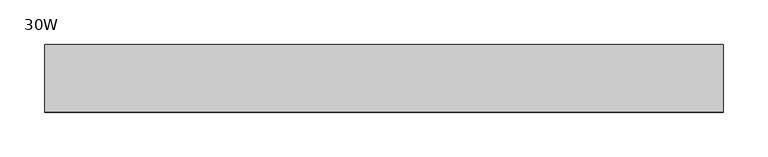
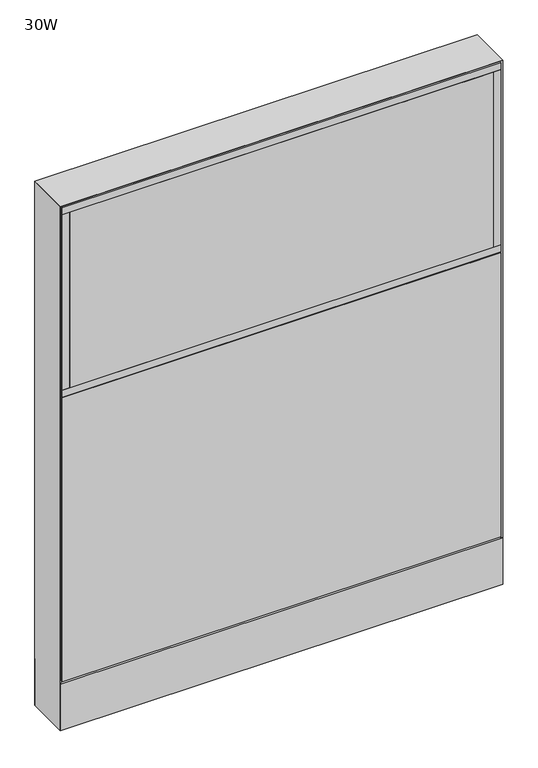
"""IFC4 building model written with IfcOpenShell, lengths in millimetres: furniture geometry, Steelcase - Montage - Frame - 38H - Enhanced Standard - Base Cavity : 30W."""

import ifcopenshell
import ifcopenshell.guid

model = None  # the IFC model being written
_history = None  # IfcOwnerHistory: only IFC2X3 demands one
_inside = {}  # id of a spatial element -> (the spatial element, [elements in it])
_under = {}  # id of a project, library or spatial element -> (it, [spatial elements below it])
_declared = {}  # id of a project -> (the project, [libraries it declares])
_typed = {}  # id of a type object -> (the type object, [elements of that type])
_made_of = {}  # id of a material, layer set ... -> (it, [elements and type objects made of it])


def new_model(schema):
    """Start an empty IFC model of exactly this schema.

    Asked for "IFC4X3", IfcOpenShell would pick the latest addendum, in which some entities
    have other attributes; the version numbers below select the first issue.
    IFC2X3 requires an IfcOwnerHistory on every rooted entity: one is made here for all.
    """
    global model, _history
    if schema == "IFC4X3":
        model = ifcopenshell.file(schema_version=(4, 3, 0, 0))
    else:
        model = ifcopenshell.file(schema=schema)
    _inside.clear()
    _under.clear()
    _declared.clear()
    _typed.clear()
    _made_of.clear()
    _history = None
    if model.schema == "IFC2X3":
        org = make("IfcOrganization", Name="unknown")
        user = make(
            "IfcPersonAndOrganization",
            ThePerson=make("IfcPerson", FamilyName="unknown"),
            TheOrganization=org,
        )
        app = make(
            "IfcApplication",
            ApplicationDeveloper=org,
            Version="unknown",
            ApplicationFullName="unknown",
            ApplicationIdentifier="unknown",
        )
        _history = make(
            "IfcOwnerHistory",
            OwningUser=user,
            OwningApplication=app,
            ChangeAction="ADDED",
            CreationDate=0,
        )
    return model


def make(cls, **values):
    """One entity of the class cls with the attributes given. An attribute that is None is left unset."""
    return model.create_entity(
        cls, **{name: value for name, value in values.items() if value is not None}
    )


def rooted(cls, **values):
    """An entity with a GlobalId (a new one), such as an element, a storey or a relation."""
    return make(cls, GlobalId=ifcopenshell.guid.new(), OwnerHistory=_history, **values)


def si_unit(unit_type, name, prefix=None):
    """IfcSIUnit, for example si_unit("LENGTHUNIT", "METRE", prefix="MILLI")."""
    return make("IfcSIUnit", UnitType=unit_type, Prefix=prefix, Name=name)


def assignment(units):
    """IfcUnitAssignment: the units of a project."""
    return None if units is None else make("IfcUnitAssignment", Units=units)


def point(xyz):
    """IfcCartesianPoint."""
    return None if xyz is None else make("IfcCartesianPoint", Coordinates=xyz)


def direction(xyz):
    """IfcDirection."""
    return None if xyz is None else make("IfcDirection", DirectionRatios=xyz)


def frame(location, z_axis=None, x_axis=None):
    """IfcAxis2Placement3D, a coordinate frame: its origin and axes. An axis left out is left unset."""
    return make(
        "IfcAxis2Placement3D",
        Location=point(location),
        Axis=direction(z_axis),
        RefDirection=direction(x_axis),
    )


def frame_2d(location, x_axis=None):
    """IfcAxis2Placement2D, a coordinate frame in the plane: its origin and x axis."""
    return make(
        "IfcAxis2Placement2D", Location=point(location), RefDirection=direction(x_axis)
    )


def origin():
    """The frame at (0, 0, 0) with its axes left unset."""
    return frame((0.0, 0.0, 0.0))


def origin_with_axes():
    """The frame at (0, 0, 0) with the z axis (0, 0, 1) and the x axis (1, 0, 0) written out."""
    return frame((0.0, 0.0, 0.0), z_axis=(0.0, 0.0, 1.0), x_axis=(1.0, 0.0, 0.0))


def place(relative_to, where):
    """IfcLocalPlacement: puts the frame where relative to a parent placement (None: the world)."""
    return make(
        "IfcLocalPlacement", PlacementRelTo=relative_to, RelativePlacement=where
    )


def context(
    kind, dimensions, precision=None, world=None, true_north=None, identifier=None
):
    """IfcGeometricRepresentationContext, for example the 3D "Model" context."""
    return make(
        "IfcGeometricRepresentationContext",
        ContextIdentifier=identifier,
        ContextType=kind,
        CoordinateSpaceDimension=dimensions,
        Precision=precision,
        WorldCoordinateSystem=world,
        TrueNorth=true_north,
    )


def project(units=None, contexts=None):
    """IfcProject with its units and contexts."""
    return rooted(
        "IfcProject",
        Name="project",
        RepresentationContexts=contexts,
        UnitsInContext=assignment(units),
    )


def spatial(cls, under=None, at=None, **own):
    """A site, building, storey or space (cls), placed at a placement, below another one or the project."""
    s = rooted(cls, ObjectPlacement=at, **own)
    if under is not None:
        _under.setdefault(under.id(), (under, []))[1].append(s)
    return s


def polyline(points):
    """IfcPolyline through the points."""
    return make("IfcPolyline", Points=[point(p) for p in points])


def circle_curve(where, radius):
    """IfcCircle in the frame where."""
    return make("IfcCircle", Position=where, Radius=radius)


def trimmed(basis, trim1, trim2, sense, master):
    """IfcTrimmedCurve: the piece of a basis curve between two trims."""
    return make(
        "IfcTrimmedCurve",
        BasisCurve=basis,
        Trim1=trim1,
        Trim2=trim2,
        SenseAgreement=sense,
        MasterRepresentation=master,
    )


def segment(curve, same_sense, transition):
    """IfcCompositeCurveSegment."""
    return make(
        "IfcCompositeCurveSegment",
        Transition=transition,
        SameSense=same_sense,
        ParentCurve=curve,
    )


def composite_curve(segments, self_intersect=None):
    """IfcCompositeCurve: segments joined end to end."""
    return make("IfcCompositeCurve", Segments=segments, SelfIntersect=self_intersect)


def outline(outer, holes=None, kind="AREA"):
    """IfcArbitraryClosedProfileDef: a profile drawn as a closed curve; with holes, ...WithVoids."""
    if holes is None:
        return make("IfcArbitraryClosedProfileDef", ProfileType=kind, OuterCurve=outer)
    return make(
        "IfcArbitraryProfileDefWithVoids",
        ProfileType=kind,
        OuterCurve=outer,
        InnerCurves=holes,
    )


def extrude(swept, where, along, depth):
    """IfcExtrudedAreaSolid: the profile swept, set in the frame where, extruded along a direction by depth."""
    return make(
        "IfcExtrudedAreaSolid",
        SweptArea=swept,
        Position=where,
        ExtrudedDirection=direction(along),
        Depth=depth,
    )


def faces_of(points, faces, orient=None, outer=None):
    """IfcFace entities. A face is a list of loops; a loop is a list of indices into points, from 0.

    orient and outer hold one flag for each loop. By default every Orientation is true, the
    first loop of a face is its IfcFaceOuterBound and the others are IfcFaceBound.
    """
    made = []
    for i, loops in enumerate(faces):
        bounds = []
        for j, loop in enumerate(loops):
            is_outer = j == 0 if outer is None else outer[i][j]
            bounds.append(
                make(
                    "IfcFaceOuterBound" if is_outer else "IfcFaceBound",
                    Bound=make("IfcPolyLoop", Polygon=[points[k] for k in loop]),
                    Orientation=True if orient is None else orient[i][j],
                )
            )
        made.append(make("IfcFace", Bounds=bounds))
    return made


def faceted_brep(points, faces, orient=None, outer=None, voids=None):
    """IfcFacetedBrep: a solid bounded by flat faces; with voids (closed shells), ...WithVoids."""
    shared = [point(p) for p in points]
    hull = make("IfcClosedShell", CfsFaces=faces_of(shared, faces, orient, outer))
    if voids is None:
        return make("IfcFacetedBrep", Outer=hull)
    return make(
        "IfcFacetedBrepWithVoids",
        Outer=hull,
        Voids=[
            make(cls, CfsFaces=faces_of(shared, fs, o, b)) for cls, fs, o, b in voids
        ],
    )


def shape(context_of_items, identifier, shape_type, items):
    """IfcShapeRepresentation: the items that make up one representation, for example the "Body"."""
    return make(
        "IfcShapeRepresentation",
        ContextOfItems=context_of_items,
        RepresentationIdentifier=identifier,
        RepresentationType=shape_type,
        Items=items,
    )


def source(mapping_origin, context_of_items, identifier, shape_type, items):
    """IfcRepresentationMap: a shape defined once, which mapped items show again and again."""
    return make(
        "IfcRepresentationMap",
        MappingOrigin=mapping_origin,
        MappedRepresentation=shape(context_of_items, identifier, shape_type, items),
    )


def transform(
    local_origin,
    x_axis=None,
    y_axis=None,
    z_axis=None,
    scale=None,
    scale2=None,
    scale3=None,
    uniform=True,
):
    """IfcCartesianTransformationOperator3D, or its non-uniform kind. x_axis, y_axis, z_axis: its Axis1, 2, 3."""
    if uniform:
        return make(
            "IfcCartesianTransformationOperator3D",
            Axis1=direction(x_axis),
            Axis2=direction(y_axis),
            LocalOrigin=point(local_origin),
            Scale=scale,
            Axis3=direction(z_axis),
        )
    return make(
        "IfcCartesianTransformationOperator3DnonUniform",
        Axis1=direction(x_axis),
        Axis2=direction(y_axis),
        LocalOrigin=point(local_origin),
        Scale=scale,
        Axis3=direction(z_axis),
        Scale2=scale2,
        Scale3=scale3,
    )


def mapped(mapping_source, mapping_target):
    """IfcMappedItem: shows the shape of a source again, moved by a transform."""
    return make(
        "IfcMappedItem", MappingSource=mapping_source, MappingTarget=mapping_target
    )


def made_of(thing, what):
    """Note that an element or type object is made of a material, layer set ...; save() writes the relation."""
    if what is not None:
        _made_of.setdefault(what.id(), (what, []))[1].append(thing)
    return thing


def element(
    cls,
    number,
    at=None,
    inside=None,
    cuts=None,
    type_object=None,
    material=None,
    context=None,
    identifier="Body",
    shape_type=None,
    held_by="IfcProductDefinitionShape",
    body=None,
    shapes=None,
    **own,
):
    """One element of the class cls, such as IfcWall. Its Tag is "e" and its number.

    at: its placement. inside: the storey or other place that contains it. cuts: it is an
    opening in that element (IfcRelVoidsElement). A single representation is given by context,
    identifier, shape_type and body (its items); several are given by shapes. held_by: the class
    of the entity that holds the representations. save() writes the other relations.
    """
    e = rooted(cls, Tag="e%d" % number, ObjectPlacement=at, **own)
    if body is not None:
        shapes = [shape(context, identifier, shape_type, body)]
    if shapes is not None:
        e.Representation = make(held_by, Representations=shapes)
    if inside is not None:
        _inside.setdefault(inside.id(), (inside, []))[1].append(e)
    if cuts is not None:
        rooted(
            "IfcRelVoidsElement", RelatingBuildingElement=cuts, RelatedOpeningElement=e
        )
    if type_object is not None:
        _typed.setdefault(type_object.id(), (type_object, []))[1].append(e)
    return made_of(e, material)


def aggregate(whole, parts):
    """IfcRelAggregates: a whole, such as a stair, and the parts it consists of."""
    return rooted("IfcRelAggregates", RelatingObject=whole, RelatedObjects=parts)


def save(model, path):
    """Write the relations noted so far, then the file.

    IfcRelAggregates (storeys below a building ...), IfcRelContainedInSpatialStructure (elements
    in a storey), IfcRelDefinesByType, IfcRelAssociatesMaterial and IfcRelDeclares: one each for
    every whole, place, type object, material and project.
    """
    for whole, parts in _under.values():
        aggregate(whole, parts)
    for where, things in _inside.values():
        rooted(
            "IfcRelContainedInSpatialStructure",
            RelatedElements=things,
            RelatingStructure=where,
        )
    for kind, things in _typed.values():
        rooted("IfcRelDefinesByType", RelatedObjects=things, RelatingType=kind)
    for what, things in _made_of.values():
        rooted("IfcRelAssociatesMaterial", RelatedObjects=things, RelatingMaterial=what)
    for by, libraries in _declared.values():
        rooted("IfcRelDeclares", RelatingContext=by, RelatedDefinitions=libraries)
    model.write(path)


def furniture_30w_daa77d19(model_context):
    return source(origin(), model_context, "Body", "SolidModel", [
        extrude(outline(polyline([(746.125, -38.09997), (15.875, -38.09997), (15.875, -31.7499702), (746.125, -31.7499702), (746.125, -38.09997)])), frame((0.0, 0.0, 623.7626978), z_axis=(0.0, 0.0, 1.0), x_axis=(1.0, 0.0, 0.0)), (0.0, 0.0, 1.0), 319.2123022),
        extrude(outline(polyline([(746.125, 31.75003), (15.875, 31.75003), (15.875, 38.100033), (746.125, 38.100033), (746.125, 31.75003)])), frame((0.0, 0.0, 623.7626978), z_axis=(0.0, 0.0, 1.0), x_axis=(1.0, 0.0, 0.0)), (0.0, 0.0, 1.0), 319.2123022),
        extrude(outline(polyline([(758.825, 38.100033), (758.825, -38.09997), (746.125, -38.09997), (746.125, 38.100033), (758.825, 38.100033)])), frame((0.0, 0.0, 623.7626978), z_axis=(0.0, 0.0, 1.0), x_axis=(1.0, 0.0, 0.0)), (0.0, 0.0, 1.0), 319.2123022),
        extrude(outline(polyline([(15.875, 38.100033), (15.875, -38.09997), (3.175, -38.09997), (3.175, 38.100033), (15.875, 38.100033)])), frame((0.0, 0.0, 623.7626978), z_axis=(0.0, 0.0, 1.0), x_axis=(1.0, 0.0, 0.0)), (0.0, 0.0, 1.0), 319.2123022),
        extrude(outline(polyline([(758.825, 38.100033), (758.825, -38.09997), (3.175, -38.09997), (3.175, 38.100033), (758.825, 38.100033)])), frame((0.0, 0.0, 611.0626978), z_axis=(0.0, 0.0, 1.0), x_axis=(1.0, 0.0, 0.0)), (0.0, 0.0, 1.0), 12.7),
        extrude(outline(polyline([(758.825, 38.100033), (758.825, -38.09997), (3.175, -38.09997), (3.175, 38.100033), (758.825, 38.100033)])), frame((0.0, 0.0, 942.975), z_axis=(0.0, 0.0, 1.0), x_axis=(1.0, 0.0, 0.0)), (0.0, 0.0, 1.0), 12.7),
        extrude(outline(polyline([(3.175, 31.7500194), (3.175, 38.1000194), (758.825, 38.1000194), (758.825, 31.7500194), (3.175, 31.7500194)])), frame((0.0, 0.0, 92.075), z_axis=(0.0, 0.0, 1.0), x_axis=(1.0, 0.0, 0.0)), (0.0, 0.0, 1.0), 517.525),
        extrude(outline(polyline([(746.125, 38.0999704), (746.125, 31.7499706), (15.875, 31.7499706), (15.875, 38.0999704), (746.125, 38.0999704)])), frame((0.0, 0.0, 623.7626978), z_axis=(0.0, 0.0, 1.0), x_axis=(1.0, 0.0, 0.0)), (0.0, 0.0, 1.0), 319.2123022),
        extrude(outline(polyline([(746.125, -31.7500296), (746.125, -38.1000326), (15.875, -38.1000326), (15.875, -31.7500296), (746.125, -31.7500296)])), frame((0.0, 0.0, 623.7626978), z_axis=(0.0, 0.0, 1.0), x_axis=(1.0, 0.0, 0.0)), (0.0, 0.0, 1.0), 319.2123022),
        extrude(outline(polyline([(758.825, -38.1000326), (746.125, -38.1000326), (746.125, 38.0999704), (758.825, 38.0999704), (758.825, -38.1000326)])), frame((0.0, 0.0, 623.7626978), z_axis=(0.0, 0.0, 1.0), x_axis=(1.0, 0.0, 0.0)), (0.0, 0.0, 1.0), 319.2123022),
        extrude(outline(polyline([(15.875, -38.1000326), (3.175, -38.1000326), (3.175, 38.0999704), (15.875, 38.0999704), (15.875, -38.1000326)])), frame((0.0, 0.0, 623.7626978), z_axis=(0.0, 0.0, 1.0), x_axis=(1.0, 0.0, 0.0)), (0.0, 0.0, 1.0), 319.2123022),
        extrude(outline(polyline([(758.825, -38.1000326), (3.175, -38.1000326), (3.175, 38.0999704), (758.825, 38.0999704), (758.825, -38.1000326)])), frame((0.0, 0.0, 611.0626978), z_axis=(0.0, 0.0, 1.0), x_axis=(1.0, 0.0, 0.0)), (0.0, 0.0, 1.0), 12.7),
        extrude(outline(polyline([(758.825, -38.1000326), (3.175, -38.1000326), (3.175, 38.0999704), (758.825, 38.0999704), (758.825, -38.1000326)])), frame((0.0, 0.0, 942.975), z_axis=(0.0, 0.0, 1.0), x_axis=(1.0, 0.0, 0.0)), (0.0, 0.0, 1.0), 12.7),
        extrude(outline(polyline([(3.175, -31.7500194), (758.825, -31.7500194), (758.825, -38.1000194), (3.175, -38.1000194), (3.175, -31.7500194)])), frame((0.0, 0.0, 92.075), z_axis=(0.0, 0.0, 1.0), x_axis=(1.0, 0.0, 0.0)), (0.0, 0.0, 1.0), 517.525),
        extrude(outline(polyline([(6.350003, -31.7499985), (755.649997, -31.7499985), (762.0, -38.1000015), (0.0, -38.1000015), (6.350003, -31.7499985)])), frame((0.0, 0.0, 4.064), z_axis=(0.0, 0.0, 1.0), x_axis=(1.0, 0.0, 0.0)), (0.0, 0.0, 1.0), 84.835997),
        extrude(outline(polyline([(6.3500002, 31.7500017), (0.0, 38.1000015), (762.0, 38.1000015), (755.6500002, 31.7500017), (6.3500002, 31.7500017)])), frame((0.0, 0.0, 4.064), z_axis=(0.0, 0.0, 1.0), x_axis=(1.0, 0.0, 0.0)), (0.0, 0.0, 1.0), 84.835997),
        faceted_brep([(762.0, -38.1000015, 958.85), (0.0, -38.1000015, 958.85), (6.3500484, -31.749953, 952.4999516), (755.6499516, -31.749953, 952.4999516), (6.3500484, 31.749953, 952.4999516), (755.6499516, 31.749953, 952.4999516), (0.0, 38.1000015, 958.85), (762.0, 38.1000015, 958.85)], [[[0, 1, 2, 3]], [[3, 2, 4, 5]], [[6, 7, 5, 4]], [[1, 0, 7, 6]], [[2, 1, 6, 4]], [[0, 3, 5, 7]]]),
        extrude(outline(composite_curve([segment(trimmed(circle_curve(frame_2d((44.45, 0.0)), 15.24), [point((29.21, 0.0))], [point((59.69, 0.0))], False, "CARTESIAN"), True, "CONTINUOUS"), segment(trimmed(circle_curve(frame_2d((44.45, 0.0)), 15.24), [point((59.69, 0.0))], [point((29.21, 0.0))], False, "CARTESIAN"), True, "CONTINUOUS")], self_intersect=False)), origin_with_axes(), (0.0, 0.0, 1.0), 4.064),
        extrude(outline(composite_curve([segment(trimmed(circle_curve(frame_2d((717.55, 0.0)), 15.24), [point((702.31, 0.0))], [point((732.79, 0.0))], False, "CARTESIAN"), True, "CONTINUOUS"), segment(trimmed(circle_curve(frame_2d((717.55, 0.0)), 15.24), [point((732.79, 0.0))], [point((702.31, 0.0))], False, "CARTESIAN"), True, "CONTINUOUS")], self_intersect=False)), origin_with_axes(), (0.0, 0.0, 1.0), 4.064),
        faceted_brep([(762.0, -38.1000106, 4.064), (762.0, 38.1000015, 4.064), (762.0, 38.1000015, 958.85), (762.0, -38.1000106, 958.8499637), (0.0, 38.1000015, 4.064), (0.0, -38.1000015, 4.064), (0.0, -38.1000015, 958.85), (0.0, 38.1000015, 958.85), (755.6499879, 31.7500017, 606.425), (6.35, 31.7500017, 606.425), (6.3499998, 31.7500017, 619.125), (755.6499879, 31.7500017, 619.125), (6.35, -31.7499985, 619.125), (755.6499879, -31.7499985, 619.125), (6.350003, -31.7499985, 606.425), (755.6499879, -31.7499985, 606.425), (6.35, 31.7500015, 4.064), (6.35, -31.7500015, 4.064), (755.6499879, 31.7499894, 4.064), (755.6499879, -31.7499985, 4.064), (6.35, 31.7500015, 952.5), (6.35, -31.7500015, 952.5), (755.6499879, -31.7499985, 952.4999516), (755.6499879, 31.7499896, 952.4999516)], [[[0, 1, 2, 3]], [[4, 5, 6, 7]], [[8, 9, 10, 11]], [[11, 10, 12, 13]], [[13, 12, 14, 15]], [[9, 8, 15, 14]], [[16, 17, 5, 4]], [[18, 1, 0, 19]], [[16, 4, 7, 20, 10, 9]], [[5, 17, 14, 12, 21, 6]], [[17, 16, 9, 14]], [[12, 10, 20, 21]], [[18, 19, 15, 8]], [[11, 13, 22, 23]], [[19, 0, 3, 22, 13, 15]], [[1, 18, 8, 11, 23, 2]], [[7, 6, 21, 20]], [[3, 2, 23, 22]]]),
    ])


if __name__ == "__main__":
    model = new_model("IFC4")
    model_context = context("Model", 3, world=origin())
    ifc_project = project(units=[si_unit("LENGTHUNIT", "METRE", prefix="MILLI")], contexts=[model_context])
    site = spatial("IfcSite", under=ifc_project)
    building = spatial("IfcBuilding", under=site)
    placement = place(None, origin())
    furniture_30w_shape = furniture_30w_daa77d19(model_context)
    element("IfcFurniture", 1, ObjectType="Steelcase - Montage - Frame - 38H - Enhanced Standard - Base Cavity : 30W", at=placement, inside=building, context=model_context, shape_type="MappedRepresentation", body=[
        mapped(furniture_30w_shape, transform((0.0, 0.0, 0.0), x_axis=(1.0, 0.0, 0.0), y_axis=(0.0, 1.0, 0.0), z_axis=(0.0, 0.0, 1.0))),
    ])
    save(model, "model.ifc")
